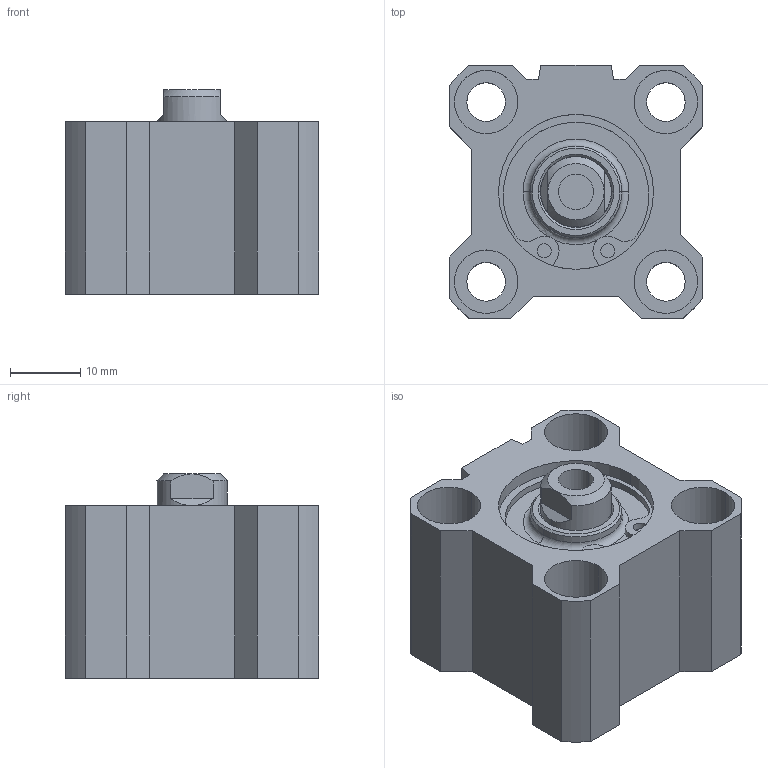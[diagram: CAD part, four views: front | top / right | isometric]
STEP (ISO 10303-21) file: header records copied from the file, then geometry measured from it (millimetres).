
FILE_DESCRIPTION (( 'STEP AP214' ), '1' );
FILE_NAME ('CQ2B20-5S.step.step', '2021-07-26T13:33:28', ( '' ), ( '' ), 'SwSTEP 2.0', 'SolidWorks 2021', '' );
FILE_SCHEMA (( 'AUTOMOTIVE_DESIGN' ));
Length unit declared in the file: millimetre
Products named in the file (4): CQ2B20-5S.step; CQ2B20-5S.step_CQ2Tube_20B; CQ2B20-5S.step_CQ2STZ2032Rods_20; CQ2B20-5S.step_CQ2 SnapRing_20
Assembly tree (3 placements, depth 2):
  CQ2B20-5S.step
    CQ2B20-5S.step_CQ2Tube_20B
    CQ2B20-5S.step_CQ2STZ2032Rods_20
    CQ2B20-5S.step_CQ2 SnapRing_20
Bounding box: 36 x 36 x 29 mm (x, y, z)
Volume: 20481.7 mm3; surface area: 12961 mm2
Topology: 3 solids, 4 shells, 145 faces, 341 edges, 224 vertices
Faces by surface type: cylinder 75, plane 62, cone 6, torus 2
Entity records: 4907 total; most frequent: DIRECTION 799, CARTESIAN_POINT 766, ORIENTED_EDGE 682, EDGE_CURVE 341, AXIS2_PLACEMENT_3D 317, VERTEX_POINT 224, EDGE_LOOP 177, CIRCLE 166
